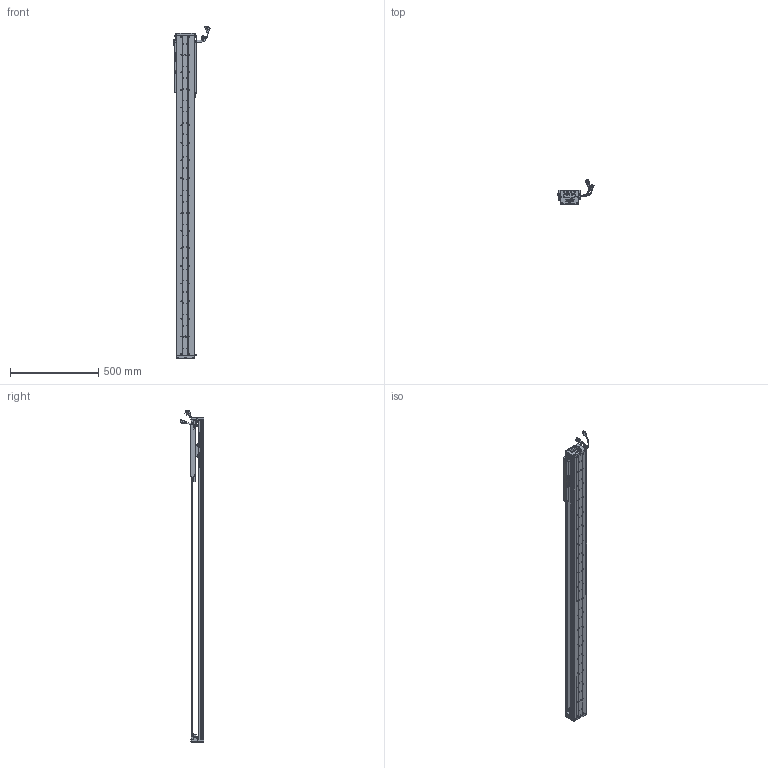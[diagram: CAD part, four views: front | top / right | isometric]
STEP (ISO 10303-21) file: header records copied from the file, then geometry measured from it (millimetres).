
FILE_DESCRIPTION (( 'STEP AP203' ), '1' );
FILE_NAME ('Z4-RY100D-1-L500-B-K.SLDASM_1450.step', '2021-05-17T03:02:59', ( '盈信电脑' ), ( '东莞市道滘镇水果街19号' ), 'SwSTEP 2.0', 'SolidWorks 2016', '' );
FILE_SCHEMA (( 'CONFIG_CONTROL_DESIGN' ));
Length unit declared in the file: millimetre
Products named in the file (36): Z-100詩湍傷裔啣; Z-RY100D詩湍奻揤裔; 140蚥薯蝶輸; 榋妏寠巭燃_暯_M2_2; COVER; Z4-RY100D-500-倰第菁釱_1450; SCREW-M1.7-1; SEAL-Part-1; Z4-RY100D-1-L500-B-K.SLDASM_1450; SCREW-M1.7; Z4-RY100-L500詩湍90mm遵_1450; SCREW-M1.6; SCREW-M1.6-1; SCALE-Part-1; COVER-Part-1; PBU_SHEET; HARNESS-Part-2; SCREW-M1.6-2; SCALE; Z4-RY100铝滑块（21款）; LABEL-Part-1; 140雄赽晤鎢ん堤盄; LABEL; 覜茼ん672; Z-RY100D覜茼んえ; SHIELDPLATE; SCREW-M1.6-3; PSLH080_PSLF2; 080黍杅芛假蚾釱21遴; Z-RY100D詩湍狟揤裔; SCALE-Part-2; 100-Z-臏賑輸盄裔(21遴); HARNESS; SEAL; HOLDER0; HARNESS-Part-1
Assembly tree (43 placements, depth 4):
  Z4-RY100D-1-L500-B-K.SLDASM_1450
    Z4-RY100D-500-倰第菁釱_1450
    Z4-RY100铝滑块（21款）
    PSLH080_PSLF2
      SCALE
        SCALE-Part-1
        SCALE-Part-2
      HARNESS
        HARNESS-Part-1
        HARNESS-Part-2
      LABEL
        LABEL-Part-1
      COVER
        COVER-Part-1
      SEAL
        SEAL-Part-1
      榋妏寠巭燃_暯_M2_2
      SHIELDPLATE
      SCREW-M1.7
      SCREW-M1.7-1
      PBU_SHEET
      SCREW-M1.6
      SCREW-M1.6-1
      SCREW-M1.6-2
      SCREW-M1.6-3
      HOLDER0
    080黍杅芛假蚾釱21遴
    Z-100詩湍傷裔啣  x2
    140蚥薯蝶輸  x2
    覜茼ん672  x3
    Z-RY100D覜茼んえ  x3
    100-Z-臏賑輸盄裔(21遴)
    140雄赽晤鎢ん堤盄
    Z4-RY100-L500詩湍90mm遵_1450
    Z-RY100D詩湍狟揤裔  x2
    Z-RY100D詩湍奻揤裔  x2
Bounding box: 205.83 x 136.11 x 1885.43 mm (x, y, z)
Volume: 3741326.6 mm3; surface area: 1440649.9 mm2
Topology: 38 solids, 38 shells, 2810 faces, 7531 edges, 4788 vertices
Faces by surface type: cylinder 1306, plane 1156, cone 226, torus 69, bspline 53
Entity records: 79075 total; most frequent: CARTESIAN_POINT 16602, DIRECTION 12655, ORIENTED_EDGE 11942, EDGE_CURVE 5971, AXIS2_PLACEMENT_3D 4713, VERTEX_POINT 3856, VECTOR 3229, LINE 3229
